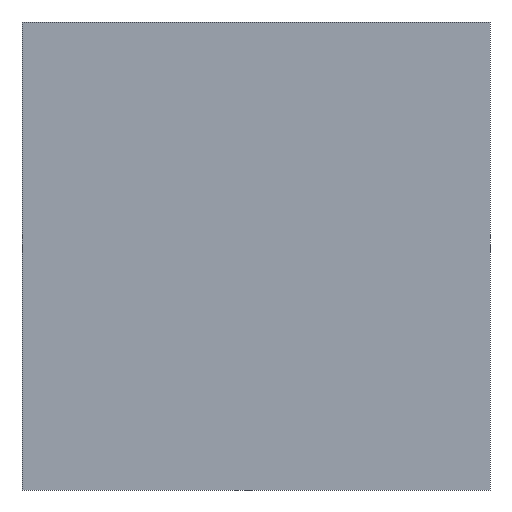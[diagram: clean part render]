
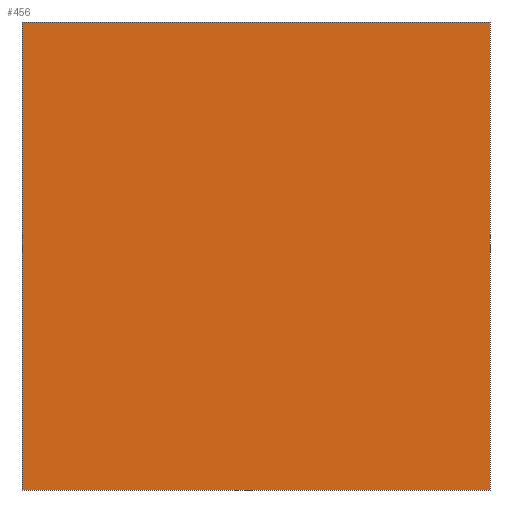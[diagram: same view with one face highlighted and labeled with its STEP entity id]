
A CAD part, front view. The second image highlights one B-rep face of the part: STEP entity #456.
In plain terms, the highlighted planar face has unit normal (0, -1, 0).
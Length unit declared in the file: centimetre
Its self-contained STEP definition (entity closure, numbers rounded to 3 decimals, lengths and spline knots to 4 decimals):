
#10 = VERTEX_POINT ( 'NONE', #433 ) ;
#17 = DIRECTION ( 'NONE',  ( 0., 0., 1. ) ) ;
#20 = CARTESIAN_POINT ( 'NONE',  ( 0., 0., 0. ) ) ;
#25 = DIRECTION ( 'NONE',  ( 0., 0., -1. ) ) ;
#32 = VECTOR ( 'NONE', #460, 100. ) ;
#34 = CARTESIAN_POINT ( 'NONE',  ( 0., 0., 0. ) ) ;
#48 = EDGE_CURVE ( 'NONE', #51, #152, #241, .T. ) ;
#51 = VERTEX_POINT ( 'NONE', #440 ) ;
#53 = VECTOR ( 'NONE', #25, 100. ) ;
#56 = CARTESIAN_POINT ( 'NONE',  ( 0., 0., 1000. ) ) ;
#73 = CARTESIAN_POINT ( 'NONE',  ( 1000., 0., 0. ) ) ;
#81 = VECTOR ( 'NONE', #464, 100. ) ;
#120 = ORIENTED_EDGE ( 'NONE', *, *, #48, .F. ) ;
#146 = CARTESIAN_POINT ( 'NONE',  ( 0., 0., 1000. ) ) ;
#152 = VERTEX_POINT ( 'NONE', #73 ) ;
#162 = ORIENTED_EDGE ( 'NONE', *, *, #176, .T. ) ;
#168 = CARTESIAN_POINT ( 'NONE',  ( 1000., 0., 1000. ) ) ;
#176 = EDGE_CURVE ( 'NONE', #397, #152, #306, .T. ) ;
#189 = LINE ( 'NONE', #146, #32 ) ;
#196 = EDGE_CURVE ( 'NONE', #10, #51, #189, .T. ) ;
#241 = LINE ( 'NONE', #168, #285 ) ;
#247 = FACE_OUTER_BOUND ( 'NONE', #275, .T. ) ;
#275 = EDGE_LOOP ( 'NONE', ( #162, #120, #431, #350 ) ) ;
#283 = DIRECTION ( 'NONE',  ( 0., 0., -1. ) ) ;
#285 = VECTOR ( 'NONE', #283, 100. ) ;
#306 = LINE ( 'NONE', #34, #81 ) ;
#328 = EDGE_CURVE ( 'NONE', #10, #397, #339, .T. ) ;
#339 = LINE ( 'NONE', #499, #53 ) ;
#350 = ORIENTED_EDGE ( 'NONE', *, *, #328, .T. ) ;
#358 = AXIS2_PLACEMENT_3D ( 'NONE', #56, #439, #17 ) ;
#397 = VERTEX_POINT ( 'NONE', #20 ) ;
#407 = PLANE ( 'NONE',  #358 ) ;
#431 = ORIENTED_EDGE ( 'NONE', *, *, #196, .F. ) ;
#433 = CARTESIAN_POINT ( 'NONE',  ( 0., 0., 1000. ) ) ;
#439 = DIRECTION ( 'NONE',  ( 0., 1., 0. ) ) ;
#440 = CARTESIAN_POINT ( 'NONE',  ( 1000., 0., 1000. ) ) ;
#456 = ADVANCED_FACE ( 'NONE', ( #247 ), #407, .F. ) ;
#460 = DIRECTION ( 'NONE',  ( 1., 0., 0. ) ) ;
#464 = DIRECTION ( 'NONE',  ( 1., 0., 0. ) ) ;
#499 = CARTESIAN_POINT ( 'NONE',  ( 0., 0., 1000. ) ) ;
